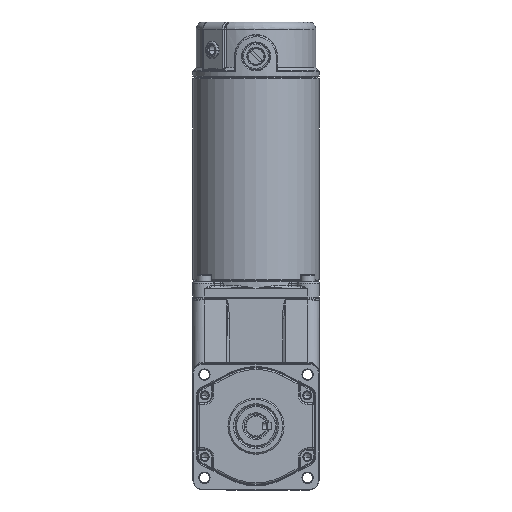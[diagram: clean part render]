
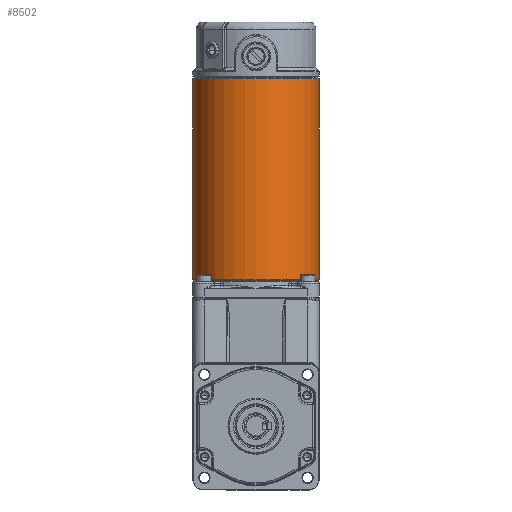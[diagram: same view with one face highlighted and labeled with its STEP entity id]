
A CAD part, front view. The second image highlights one B-rep face of the part: STEP entity #8502.
In plain terms, the highlighted cylindrical face has radius 45 mm (diameter 90 mm), a partial arc.
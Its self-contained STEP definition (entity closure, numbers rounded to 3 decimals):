
#410 = AXIS2_PLACEMENT_3D ( 'NONE', #26021, #90662, #10160 ) ;
#992 = CARTESIAN_POINT ( 'NONE',  ( 0., 0., 45. ) ) ;
#2632 = CARTESIAN_POINT ( 'NONE',  ( 0., 0., -45. ) ) ;
#8502 = ADVANCED_FACE ( 'NONE', ( #98608 ), #26537, .T. ) ;
#8916 = ORIENTED_EDGE ( 'NONE', *, *, #50310, .T. ) ;
#9371 = ORIENTED_EDGE ( 'NONE', *, *, #55988, .F. ) ;
#10160 = DIRECTION ( 'NONE',  ( 0., 0., 1. ) ) ;
#14742 = VERTEX_POINT ( 'NONE', #34320 ) ;
#18546 = DIRECTION ( 'NONE',  ( 0., 0., 1. ) ) ;
#21905 = VECTOR ( 'NONE', #23254, 1000. ) ;
#22042 = CARTESIAN_POINT ( 'NONE',  ( 0., 144., -45. ) ) ;
#23254 = DIRECTION ( 'NONE',  ( 0., 1., 0. ) ) ;
#25320 = CARTESIAN_POINT ( 'NONE',  ( 0., 144., 0. ) ) ;
#26021 = CARTESIAN_POINT ( 'NONE',  ( 0., 0., 0. ) ) ;
#26537 = CYLINDRICAL_SURFACE ( 'NONE', #410, 45. ) ;
#27055 = CARTESIAN_POINT ( 'NONE',  ( 0., 144., 45. ) ) ;
#28027 = DIRECTION ( 'NONE',  ( 0., 1., 0. ) ) ;
#34320 = CARTESIAN_POINT ( 'NONE',  ( 0., 1., 45. ) ) ;
#38617 = EDGE_LOOP ( 'NONE', ( #85061, #8916, #70087, #9371 ) ) ;
#39150 = LINE ( 'NONE', #992, #21905 ) ;
#40982 = VERTEX_POINT ( 'NONE', #27055 ) ;
#50310 = EDGE_CURVE ( 'NONE', #68934, #93456, #99560, .T. ) ;
#50626 = EDGE_CURVE ( 'NONE', #93456, #40982, #67189, .T. ) ;
#55988 = EDGE_CURVE ( 'NONE', #14742, #40982, #39150, .T. ) ;
#57662 = DIRECTION ( 'NONE',  ( 0., 0., 1. ) ) ;
#58742 = VECTOR ( 'NONE', #28027, 1000. ) ;
#58814 = CARTESIAN_POINT ( 'NONE',  ( 0., 1., 0. ) ) ;
#64031 = CIRCLE ( 'NONE', #97804, 45. ) ;
#67189 = CIRCLE ( 'NONE', #97663, 45. ) ;
#68934 = VERTEX_POINT ( 'NONE', #98702 ) ;
#70087 = ORIENTED_EDGE ( 'NONE', *, *, #50626, .T. ) ;
#80410 = DIRECTION ( 'NONE',  ( 0., -1., 0. ) ) ;
#85061 = ORIENTED_EDGE ( 'NONE', *, *, #89888, .T. ) ;
#89888 = EDGE_CURVE ( 'NONE', #14742, #68934, #64031, .T. ) ;
#90662 = DIRECTION ( 'NONE',  ( 0., 1., 0. ) ) ;
#93456 = VERTEX_POINT ( 'NONE', #22042 ) ;
#97484 = DIRECTION ( 'NONE',  ( 0., 1., 0. ) ) ;
#97663 = AXIS2_PLACEMENT_3D ( 'NONE', #25320, #80410, #57662 ) ;
#97804 = AXIS2_PLACEMENT_3D ( 'NONE', #58814, #97484, #18546 ) ;
#98608 = FACE_OUTER_BOUND ( 'NONE', #38617, .T. ) ;
#98702 = CARTESIAN_POINT ( 'NONE',  ( 0., 1., -45. ) ) ;
#99560 = LINE ( 'NONE', #2632, #58742 ) ;
